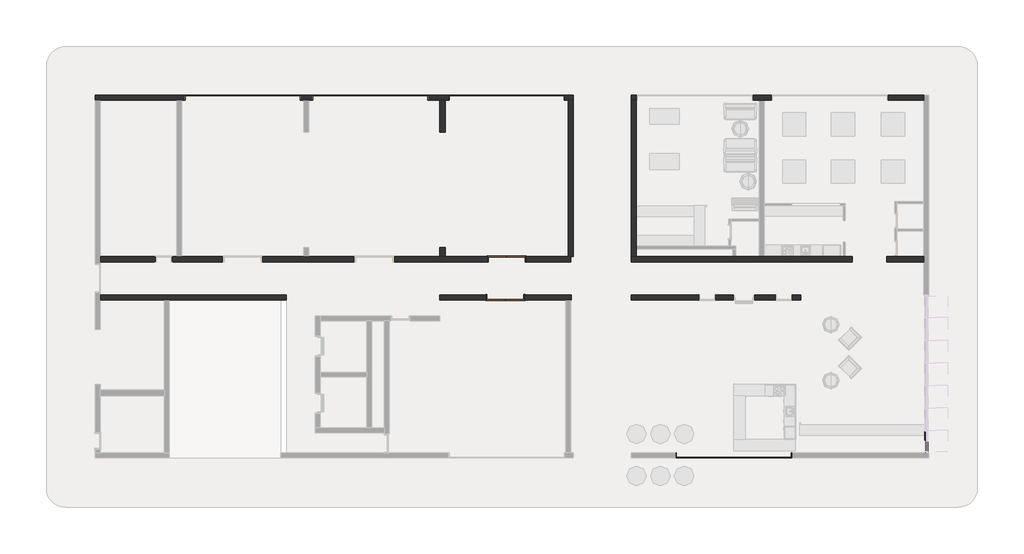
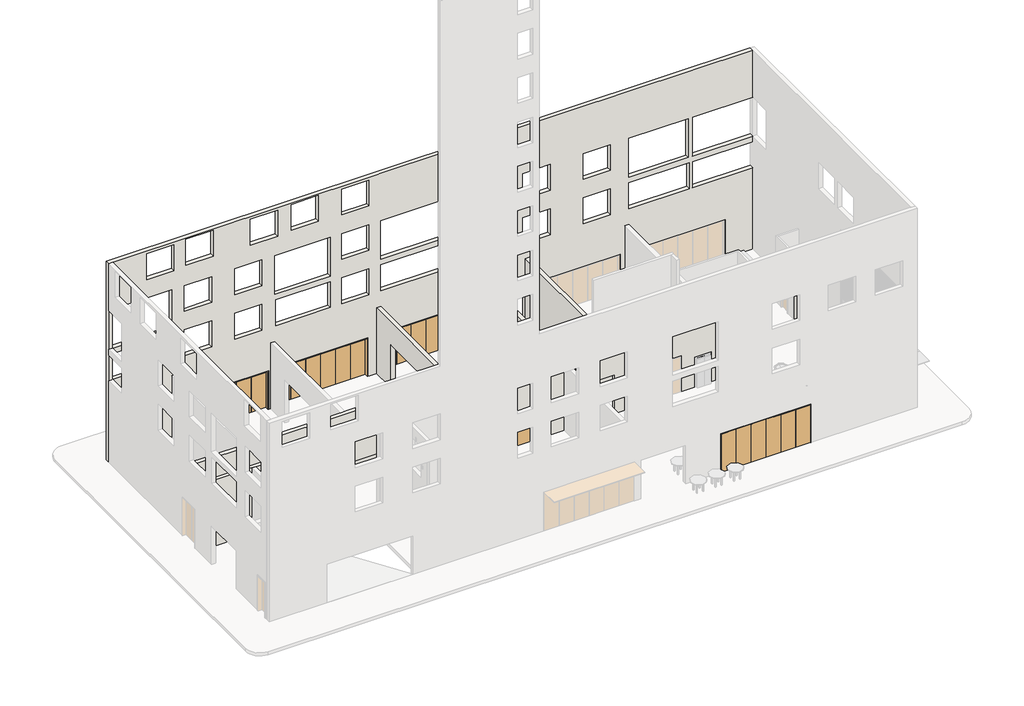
# One storey, part 2 of 8: 48 plates, 6 doors, 6 walls, 4 members.
"""IFC4 building model written with IfcOpenShell, lengths in millimetres."""

from ifc_helpers import new_model, si_unit, frame, origin, place, context, project, spatial, polyline, outline, extrude, faceted_brep, transform, mapped, element, save
from components import bi_fold_dor_6_panel_6000_f2409742, bi_fold_dor_6_panel_6000_871157eb, bi_fold_dor_6_panel_6000_81c243c2, swing_double_metal_frame_double_2040_x_970x2_2b0cb67a, rectangular_mullion_50_x_150mm_232fa5d8, rectangular_mullion_50_x_150mm_43455e2b, rectangular_mullion_50_x_150mm_69155bbe, empty_system_panel_empty_6a0359b6, empty_system_panel_empty_9e7b3ea5, system_panel_concept_glazed_32b225e3

model = new_model("IFC4")

# Units and contexts
model_context = context("Model", 3, world=origin())
ifc_project = project(units=[si_unit("LENGTHUNIT", "METRE", prefix="MILLI")], contexts=[model_context])

# Site, building, storey
site = spatial("IfcSite", under=ifc_project)
building = spatial("IfcBuilding", under=site)
storey = spatial("IfcBuildingStorey", under=building, Name="0階", Elevation=25100.0)

# Doors
placement = place(None, origin())
bi_fold_dor_6_panel_6000_shape = bi_fold_dor_6_panel_6000_f2409742(model_context)
element("IfcDoor", 1, ObjectType="Bi Fold_DOR : 6 Panel - 6000", at=placement, inside=storey, context=model_context, shape_type="MappedRepresentation", body=[
    mapped(bi_fold_dor_6_panel_6000_shape, transform((9953.4275387, 18575.0, 25100.0), x_axis=(1.0, 0.0, 0.0), y_axis=(0.0, 1.0, 0.0), z_axis=(0.0, 0.0, 1.0))),
])
element("IfcDoor", 2, ObjectType="Bi Fold_DOR : 6 Panel - 6000", at=placement, inside=storey, context=model_context, shape_type="MappedRepresentation", body=[
    mapped(bi_fold_dor_6_panel_6000_shape, transform((23523.2434971, 18575.0, 25100.0), x_axis=(1.0, 0.0, 0.0), y_axis=(0.0, 1.0, 0.0), z_axis=(0.0, 0.0, 1.0))),
])
bi_fold_dor_6_panel_6000_2_shape = bi_fold_dor_6_panel_6000_871157eb(model_context)
element("IfcDoor", 3, ObjectType="Bi Fold_DOR : 6 Panel - 6000", at=placement, inside=storey, context=model_context, shape_type="MappedRepresentation", body=[
    mapped(bi_fold_dor_6_panel_6000_2_shape, transform((16517.1904782, 18575.0, 25100.0), x_axis=(-1.0, 0.0, 0.0), y_axis=(0.0, -1.0, 0.0), z_axis=(0.0, 0.0, 1.0))),
])
bi_fold_dor_6_panel_6000_3_shape = bi_fold_dor_6_panel_6000_81c243c2(model_context)
element("IfcDoor", 4, ObjectType="Bi Fold_DOR : 6 Panel - 6000", at=placement, inside=storey, context=model_context, shape_type="MappedRepresentation", body=[
    mapped(bi_fold_dor_6_panel_6000_3_shape, transform((35212.4654784, 174.0898177, 25100.0), x_axis=(-1.0, 0.0, 0.0), y_axis=(0.0, -1.0, 0.0), z_axis=(0.0, 0.0, 1.0))),
])
swing_double_metal_frame_double_2040_x_970x2_shape = swing_double_metal_frame_double_2040_x_970x2_2b0cb67a(model_context)
element("IfcDoor", 5, ObjectType="Swing_Double : Metal Frame Double - 2040 x 970x2", at=placement, inside=storey, context=model_context, shape_type="MappedRepresentation", body=[
    mapped(swing_double_metal_frame_double_2040_x_970x2_shape, transform((23734.7434971, 10265.005792, 25100.0), x_axis=(1.0, 0.0, 0.0), y_axis=(0.0, 1.0, 0.0), z_axis=(0.0, 0.0, 1.0))),
])
element("IfcDoor", 6, ObjectType="Swing_Double : Metal Frame Double - 2040 x 970x2", at=placement, inside=storey, context=model_context, shape_type="MappedRepresentation", body=[
    mapped(swing_double_metal_frame_double_2040_x_970x2_shape, transform((23249.2434971, 8295.005792, 25100.0), x_axis=(-1.0, 0.0, 0.0), y_axis=(0.0, -1.0, 0.0), z_axis=(0.0, 0.0, 1.0))),
])

# Members
rectangular_mullion_50_x_150mm_shape = rectangular_mullion_50_x_150mm_232fa5d8(model_context)
element("IfcMember", 7, ObjectType="Rectangular Mullion : 50 x 150mm", at=placement, inside=storey, context=model_context, shape_type="MappedRepresentation", body=[
    mapped(rectangular_mullion_50_x_150mm_shape, transform((45100.0, 309.0898177, 25100.0), x_axis=(0.0, 0.0, -1.0), y_axis=(1.0, 0.0, 0.0), z_axis=(0.0, -1.0, 0.0))),
])
rectangular_mullion_50_x_150mm_2_shape = rectangular_mullion_50_x_150mm_43455e2b(model_context)
element("IfcMember", 8, ObjectType="Rectangular Mullion : 50 x 150mm", at=placement, inside=storey, context=model_context, shape_type="MappedRepresentation", body=[
    mapped(rectangular_mullion_50_x_150mm_2_shape, transform((45100.0, 309.0898177, 27800.0), x_axis=(0.0, -1.0, 0.0), y_axis=(1.0, 0.0, 0.0), z_axis=(0.0, 0.0, 1.0))),
])
element("IfcMember", 9, ObjectType="Rectangular Mullion : 50 x 150mm", at=placement, inside=storey, context=model_context, shape_type="MappedRepresentation", body=[
    mapped(rectangular_mullion_50_x_150mm_2_shape, transform((45100.0, 309.0898177, 32550.0), x_axis=(0.0, -1.0, 0.0), y_axis=(1.0, 0.0, 0.0), z_axis=(0.0, 0.0, 1.0))),
])
rectangular_mullion_50_x_150mm_3_shape = rectangular_mullion_50_x_150mm_69155bbe(model_context)
element("IfcMember", 10, ObjectType="Rectangular Mullion : 50 x 150mm", at=placement, inside=storey, context=model_context, shape_type="MappedRepresentation", body=[
    mapped(rectangular_mullion_50_x_150mm_3_shape, transform((45100.0, 309.0898177, 29900.0), x_axis=(0.0, -1.0, 0.0), y_axis=(1.0, 0.0, 0.0), z_axis=(0.0, 0.0, 1.0))),
])

# Plates
empty_system_panel_empty_shape = empty_system_panel_empty_6a0359b6(model_context)
element("IfcPlate", 11, ObjectType="Empty System Panel : Empty", at=placement, inside=storey, context=model_context, shape_type="MappedRepresentation", body=[
    mapped(empty_system_panel_empty_shape, transform((45100.0, 900.1612462, 27825.0), x_axis=(0.0, 1.0, 0.0), y_axis=(-1.0, 0.0, 0.0), z_axis=(0.0, 0.0, 1.0))),
])
element("IfcPlate", 12, ObjectType="Empty System Panel : Empty", at=placement, inside=storey, context=model_context, shape_type="MappedRepresentation", body=[
    mapped(empty_system_panel_empty_shape, transform((45100.0, 900.1612462, 27925.0), x_axis=(0.0, 1.0, 0.0), y_axis=(-1.0, 0.0, 0.0), z_axis=(0.0, 0.0, 1.0))),
])
element("IfcPlate", 13, ObjectType="Empty System Panel : Empty", at=placement, inside=storey, context=model_context, shape_type="MappedRepresentation", body=[
    mapped(empty_system_panel_empty_shape, transform((45100.0, 900.1612462, 28025.0), x_axis=(0.0, 1.0, 0.0), y_axis=(-1.0, 0.0, 0.0), z_axis=(0.0, 0.0, 1.0))),
])
element("IfcPlate", 14, ObjectType="Empty System Panel : Empty", at=placement, inside=storey, context=model_context, shape_type="MappedRepresentation", body=[
    mapped(empty_system_panel_empty_shape, transform((45100.0, 900.1612462, 28125.0), x_axis=(0.0, 1.0, 0.0), y_axis=(-1.0, 0.0, 0.0), z_axis=(0.0, 0.0, 1.0))),
])
element("IfcPlate", 15, ObjectType="Empty System Panel : Empty", at=placement, inside=storey, context=model_context, shape_type="MappedRepresentation", body=[
    mapped(empty_system_panel_empty_shape, transform((45100.0, 900.1612462, 28225.0), x_axis=(0.0, 1.0, 0.0), y_axis=(-1.0, 0.0, 0.0), z_axis=(0.0, 0.0, 1.0))),
])
element("IfcPlate", 16, ObjectType="Empty System Panel : Empty", at=placement, inside=storey, context=model_context, shape_type="MappedRepresentation", body=[
    mapped(empty_system_panel_empty_shape, transform((45100.0, 900.1612462, 28325.0), x_axis=(0.0, 1.0, 0.0), y_axis=(-1.0, 0.0, 0.0), z_axis=(0.0, 0.0, 1.0))),
])
element("IfcPlate", 17, ObjectType="Empty System Panel : Empty", at=placement, inside=storey, context=model_context, shape_type="MappedRepresentation", body=[
    mapped(empty_system_panel_empty_shape, transform((45100.0, 900.1612462, 28425.0), x_axis=(0.0, 1.0, 0.0), y_axis=(-1.0, 0.0, 0.0), z_axis=(0.0, 0.0, 1.0))),
])
element("IfcPlate", 18, ObjectType="Empty System Panel : Empty", at=placement, inside=storey, context=model_context, shape_type="MappedRepresentation", body=[
    mapped(empty_system_panel_empty_shape, transform((45100.0, 900.1612462, 28525.0), x_axis=(0.0, 1.0, 0.0), y_axis=(-1.0, 0.0, 0.0), z_axis=(0.0, 0.0, 1.0))),
])
element("IfcPlate", 19, ObjectType="Empty System Panel : Empty", at=placement, inside=storey, context=model_context, shape_type="MappedRepresentation", body=[
    mapped(empty_system_panel_empty_shape, transform((45100.0, 900.1612462, 28625.0), x_axis=(0.0, 1.0, 0.0), y_axis=(-1.0, 0.0, 0.0), z_axis=(0.0, 0.0, 1.0))),
])
element("IfcPlate", 20, ObjectType="Empty System Panel : Empty", at=placement, inside=storey, context=model_context, shape_type="MappedRepresentation", body=[
    mapped(empty_system_panel_empty_shape, transform((45100.0, 900.1612462, 28725.0), x_axis=(0.0, 1.0, 0.0), y_axis=(-1.0, 0.0, 0.0), z_axis=(0.0, 0.0, 1.0))),
])
element("IfcPlate", 21, ObjectType="Empty System Panel : Empty", at=placement, inside=storey, context=model_context, shape_type="MappedRepresentation", body=[
    mapped(empty_system_panel_empty_shape, transform((45100.0, 900.1612462, 28825.0), x_axis=(0.0, 1.0, 0.0), y_axis=(-1.0, 0.0, 0.0), z_axis=(0.0, 0.0, 1.0))),
])
element("IfcPlate", 22, ObjectType="Empty System Panel : Empty", at=placement, inside=storey, context=model_context, shape_type="MappedRepresentation", body=[
    mapped(empty_system_panel_empty_shape, transform((45100.0, 900.1612462, 28925.0), x_axis=(0.0, 1.0, 0.0), y_axis=(-1.0, 0.0, 0.0), z_axis=(0.0, 0.0, 1.0))),
])
element("IfcPlate", 23, ObjectType="Empty System Panel : Empty", at=placement, inside=storey, context=model_context, shape_type="MappedRepresentation", body=[
    mapped(empty_system_panel_empty_shape, transform((45100.0, 900.1612462, 29025.0), x_axis=(0.0, 1.0, 0.0), y_axis=(-1.0, 0.0, 0.0), z_axis=(0.0, 0.0, 1.0))),
])
element("IfcPlate", 24, ObjectType="Empty System Panel : Empty", at=placement, inside=storey, context=model_context, shape_type="MappedRepresentation", body=[
    mapped(empty_system_panel_empty_shape, transform((45100.0, 900.1612462, 29125.0), x_axis=(0.0, 1.0, 0.0), y_axis=(-1.0, 0.0, 0.0), z_axis=(0.0, 0.0, 1.0))),
])
element("IfcPlate", 25, ObjectType="Empty System Panel : Empty", at=placement, inside=storey, context=model_context, shape_type="MappedRepresentation", body=[
    mapped(empty_system_panel_empty_shape, transform((45100.0, 900.1612462, 29225.0), x_axis=(0.0, 1.0, 0.0), y_axis=(-1.0, 0.0, 0.0), z_axis=(0.0, 0.0, 1.0))),
])
element("IfcPlate", 26, ObjectType="Empty System Panel : Empty", at=placement, inside=storey, context=model_context, shape_type="MappedRepresentation", body=[
    mapped(empty_system_panel_empty_shape, transform((45100.0, 900.1612462, 29325.0), x_axis=(0.0, 1.0, 0.0), y_axis=(-1.0, 0.0, 0.0), z_axis=(0.0, 0.0, 1.0))),
])
element("IfcPlate", 27, ObjectType="Empty System Panel : Empty", at=placement, inside=storey, context=model_context, shape_type="MappedRepresentation", body=[
    mapped(empty_system_panel_empty_shape, transform((45100.0, 900.1612462, 29425.0), x_axis=(0.0, 1.0, 0.0), y_axis=(-1.0, 0.0, 0.0), z_axis=(0.0, 0.0, 1.0))),
])
element("IfcPlate", 28, ObjectType="Empty System Panel : Empty", at=placement, inside=storey, context=model_context, shape_type="MappedRepresentation", body=[
    mapped(empty_system_panel_empty_shape, transform((45100.0, 900.1612462, 29525.0), x_axis=(0.0, 1.0, 0.0), y_axis=(-1.0, 0.0, 0.0), z_axis=(0.0, 0.0, 1.0))),
])
element("IfcPlate", 29, ObjectType="Empty System Panel : Empty", at=placement, inside=storey, context=model_context, shape_type="MappedRepresentation", body=[
    mapped(empty_system_panel_empty_shape, transform((45100.0, 900.1612462, 29625.0), x_axis=(0.0, 1.0, 0.0), y_axis=(-1.0, 0.0, 0.0), z_axis=(0.0, 0.0, 1.0))),
])
element("IfcPlate", 30, ObjectType="Empty System Panel : Empty", at=placement, inside=storey, context=model_context, shape_type="MappedRepresentation", body=[
    mapped(empty_system_panel_empty_shape, transform((45100.0, 900.1612462, 29725.0), x_axis=(0.0, 1.0, 0.0), y_axis=(-1.0, 0.0, 0.0), z_axis=(0.0, 0.0, 1.0))),
])
element("IfcPlate", 31, ObjectType="Empty System Panel : Empty", at=placement, inside=storey, context=model_context, shape_type="MappedRepresentation", body=[
    mapped(empty_system_panel_empty_shape, transform((45100.0, 900.1612462, 29925.0), x_axis=(0.0, 1.0, 0.0), y_axis=(-1.0, 0.0, 0.0), z_axis=(0.0, 0.0, 1.0))),
])
element("IfcPlate", 32, ObjectType="Empty System Panel : Empty", at=placement, inside=storey, context=model_context, shape_type="MappedRepresentation", body=[
    mapped(empty_system_panel_empty_shape, transform((45100.0, 900.1612462, 30025.0), x_axis=(0.0, 1.0, 0.0), y_axis=(-1.0, 0.0, 0.0), z_axis=(0.0, 0.0, 1.0))),
])
element("IfcPlate", 33, ObjectType="Empty System Panel : Empty", at=placement, inside=storey, context=model_context, shape_type="MappedRepresentation", body=[
    mapped(empty_system_panel_empty_shape, transform((45100.0, 900.1612462, 30125.0), x_axis=(0.0, 1.0, 0.0), y_axis=(-1.0, 0.0, 0.0), z_axis=(0.0, 0.0, 1.0))),
])
element("IfcPlate", 34, ObjectType="Empty System Panel : Empty", at=placement, inside=storey, context=model_context, shape_type="MappedRepresentation", body=[
    mapped(empty_system_panel_empty_shape, transform((45100.0, 900.1612462, 30225.0), x_axis=(0.0, 1.0, 0.0), y_axis=(-1.0, 0.0, 0.0), z_axis=(0.0, 0.0, 1.0))),
])
element("IfcPlate", 35, ObjectType="Empty System Panel : Empty", at=placement, inside=storey, context=model_context, shape_type="MappedRepresentation", body=[
    mapped(empty_system_panel_empty_shape, transform((45100.0, 900.1612462, 30325.0), x_axis=(0.0, 1.0, 0.0), y_axis=(-1.0, 0.0, 0.0), z_axis=(0.0, 0.0, 1.0))),
])
element("IfcPlate", 36, ObjectType="Empty System Panel : Empty", at=placement, inside=storey, context=model_context, shape_type="MappedRepresentation", body=[
    mapped(empty_system_panel_empty_shape, transform((45100.0, 900.1612462, 30425.0), x_axis=(0.0, 1.0, 0.0), y_axis=(-1.0, 0.0, 0.0), z_axis=(0.0, 0.0, 1.0))),
])
element("IfcPlate", 37, ObjectType="Empty System Panel : Empty", at=placement, inside=storey, context=model_context, shape_type="MappedRepresentation", body=[
    mapped(empty_system_panel_empty_shape, transform((45100.0, 900.1612462, 30525.0), x_axis=(0.0, 1.0, 0.0), y_axis=(-1.0, 0.0, 0.0), z_axis=(0.0, 0.0, 1.0))),
])
element("IfcPlate", 38, ObjectType="Empty System Panel : Empty", at=placement, inside=storey, context=model_context, shape_type="MappedRepresentation", body=[
    mapped(empty_system_panel_empty_shape, transform((45100.0, 900.1612462, 30625.0), x_axis=(0.0, 1.0, 0.0), y_axis=(-1.0, 0.0, 0.0), z_axis=(0.0, 0.0, 1.0))),
])
element("IfcPlate", 39, ObjectType="Empty System Panel : Empty", at=placement, inside=storey, context=model_context, shape_type="MappedRepresentation", body=[
    mapped(empty_system_panel_empty_shape, transform((45100.0, 900.1612462, 30725.0), x_axis=(0.0, 1.0, 0.0), y_axis=(-1.0, 0.0, 0.0), z_axis=(0.0, 0.0, 1.0))),
])
element("IfcPlate", 40, ObjectType="Empty System Panel : Empty", at=placement, inside=storey, context=model_context, shape_type="MappedRepresentation", body=[
    mapped(empty_system_panel_empty_shape, transform((45100.0, 900.1612462, 30825.0), x_axis=(0.0, 1.0, 0.0), y_axis=(-1.0, 0.0, 0.0), z_axis=(0.0, 0.0, 1.0))),
])
element("IfcPlate", 41, ObjectType="Empty System Panel : Empty", at=placement, inside=storey, context=model_context, shape_type="MappedRepresentation", body=[
    mapped(empty_system_panel_empty_shape, transform((45100.0, 900.1612462, 30925.0), x_axis=(0.0, 1.0, 0.0), y_axis=(-1.0, 0.0, 0.0), z_axis=(0.0, 0.0, 1.0))),
])
element("IfcPlate", 42, ObjectType="Empty System Panel : Empty", at=placement, inside=storey, context=model_context, shape_type="MappedRepresentation", body=[
    mapped(empty_system_panel_empty_shape, transform((45100.0, 900.1612462, 31025.0), x_axis=(0.0, 1.0, 0.0), y_axis=(-1.0, 0.0, 0.0), z_axis=(0.0, 0.0, 1.0))),
])
element("IfcPlate", 43, ObjectType="Empty System Panel : Empty", at=placement, inside=storey, context=model_context, shape_type="MappedRepresentation", body=[
    mapped(empty_system_panel_empty_shape, transform((45100.0, 900.1612462, 31125.0), x_axis=(0.0, 1.0, 0.0), y_axis=(-1.0, 0.0, 0.0), z_axis=(0.0, 0.0, 1.0))),
])
element("IfcPlate", 44, ObjectType="Empty System Panel : Empty", at=placement, inside=storey, context=model_context, shape_type="MappedRepresentation", body=[
    mapped(empty_system_panel_empty_shape, transform((45100.0, 900.1612462, 31225.0), x_axis=(0.0, 1.0, 0.0), y_axis=(-1.0, 0.0, 0.0), z_axis=(0.0, 0.0, 1.0))),
])
element("IfcPlate", 45, ObjectType="Empty System Panel : Empty", at=placement, inside=storey, context=model_context, shape_type="MappedRepresentation", body=[
    mapped(empty_system_panel_empty_shape, transform((45100.0, 900.1612462, 31325.0), x_axis=(0.0, 1.0, 0.0), y_axis=(-1.0, 0.0, 0.0), z_axis=(0.0, 0.0, 1.0))),
])
element("IfcPlate", 46, ObjectType="Empty System Panel : Empty", at=placement, inside=storey, context=model_context, shape_type="MappedRepresentation", body=[
    mapped(empty_system_panel_empty_shape, transform((45100.0, 900.1612462, 31425.0), x_axis=(0.0, 1.0, 0.0), y_axis=(-1.0, 0.0, 0.0), z_axis=(0.0, 0.0, 1.0))),
])
element("IfcPlate", 47, ObjectType="Empty System Panel : Empty", at=placement, inside=storey, context=model_context, shape_type="MappedRepresentation", body=[
    mapped(empty_system_panel_empty_shape, transform((45100.0, 900.1612462, 31525.0), x_axis=(0.0, 1.0, 0.0), y_axis=(-1.0, 0.0, 0.0), z_axis=(0.0, 0.0, 1.0))),
])
element("IfcPlate", 48, ObjectType="Empty System Panel : Empty", at=placement, inside=storey, context=model_context, shape_type="MappedRepresentation", body=[
    mapped(empty_system_panel_empty_shape, transform((45100.0, 900.1612462, 31625.0), x_axis=(0.0, 1.0, 0.0), y_axis=(-1.0, 0.0, 0.0), z_axis=(0.0, 0.0, 1.0))),
])
element("IfcPlate", 49, ObjectType="Empty System Panel : Empty", at=placement, inside=storey, context=model_context, shape_type="MappedRepresentation", body=[
    mapped(empty_system_panel_empty_shape, transform((45100.0, 900.1612462, 31725.0), x_axis=(0.0, 1.0, 0.0), y_axis=(-1.0, 0.0, 0.0), z_axis=(0.0, 0.0, 1.0))),
])
element("IfcPlate", 50, ObjectType="Empty System Panel : Empty", at=placement, inside=storey, context=model_context, shape_type="MappedRepresentation", body=[
    mapped(empty_system_panel_empty_shape, transform((45100.0, 900.1612462, 31825.0), x_axis=(0.0, 1.0, 0.0), y_axis=(-1.0, 0.0, 0.0), z_axis=(0.0, 0.0, 1.0))),
])
element("IfcPlate", 51, ObjectType="Empty System Panel : Empty", at=placement, inside=storey, context=model_context, shape_type="MappedRepresentation", body=[
    mapped(empty_system_panel_empty_shape, transform((45100.0, 900.1612462, 31925.0), x_axis=(0.0, 1.0, 0.0), y_axis=(-1.0, 0.0, 0.0), z_axis=(0.0, 0.0, 1.0))),
])
element("IfcPlate", 52, ObjectType="Empty System Panel : Empty", at=placement, inside=storey, context=model_context, shape_type="MappedRepresentation", body=[
    mapped(empty_system_panel_empty_shape, transform((45100.0, 900.1612462, 32025.0), x_axis=(0.0, 1.0, 0.0), y_axis=(-1.0, 0.0, 0.0), z_axis=(0.0, 0.0, 1.0))),
])
element("IfcPlate", 53, ObjectType="Empty System Panel : Empty", at=placement, inside=storey, context=model_context, shape_type="MappedRepresentation", body=[
    mapped(empty_system_panel_empty_shape, transform((45100.0, 900.1612462, 32125.0), x_axis=(0.0, 1.0, 0.0), y_axis=(-1.0, 0.0, 0.0), z_axis=(0.0, 0.0, 1.0))),
])
element("IfcPlate", 54, ObjectType="Empty System Panel : Empty", at=placement, inside=storey, context=model_context, shape_type="MappedRepresentation", body=[
    mapped(empty_system_panel_empty_shape, transform((45100.0, 900.1612462, 32225.0), x_axis=(0.0, 1.0, 0.0), y_axis=(-1.0, 0.0, 0.0), z_axis=(0.0, 0.0, 1.0))),
])
element("IfcPlate", 55, ObjectType="Empty System Panel : Empty", at=placement, inside=storey, context=model_context, shape_type="MappedRepresentation", body=[
    mapped(empty_system_panel_empty_shape, transform((45100.0, 900.1612462, 32325.0), x_axis=(0.0, 1.0, 0.0), y_axis=(-1.0, 0.0, 0.0), z_axis=(0.0, 0.0, 1.0))),
])
element("IfcPlate", 56, ObjectType="Empty System Panel : Empty", at=placement, inside=storey, context=model_context, shape_type="MappedRepresentation", body=[
    mapped(empty_system_panel_empty_shape, transform((45100.0, 900.1612462, 32425.0), x_axis=(0.0, 1.0, 0.0), y_axis=(-1.0, 0.0, 0.0), z_axis=(0.0, 0.0, 1.0))),
])
empty_system_panel_empty_2_shape = empty_system_panel_empty_9e7b3ea5(model_context)
element("IfcPlate", 57, ObjectType="Empty System Panel : Empty", at=placement, inside=storey, context=model_context, shape_type="MappedRepresentation", body=[
    mapped(empty_system_panel_empty_2_shape, transform((45100.0, 900.1612462, 29825.0), x_axis=(0.0, 1.0, 0.0), y_axis=(-1.0, 0.0, 0.0), z_axis=(0.0, 0.0, 1.0))),
])
system_panel_concept_glazed_shape = system_panel_concept_glazed_32b225e3(model_context)
element("IfcPlate", 58, ObjectType="System Panel : Concept Glazed", at=placement, inside=storey, context=model_context, shape_type="MappedRepresentation", body=[
    mapped(system_panel_concept_glazed_shape, transform((45100.0, 900.1612462, 25150.0), x_axis=(0.0, 1.0, 0.0), y_axis=(-1.0, 0.0, 0.0), z_axis=(0.0, 0.0, 1.0))),
])

# Walls
element("IfcWall", 59, ObjectType="Brickwork_Double_270mm", at=placement, inside=storey, context=model_context, shape_type="Brep", body=[
    faceted_brep([(44965.0, 18440.0, 39000.0), (20364.6062665, 18440.0, 39000.0), (20094.6062665, 18440.0, 39000.0), (2639.6057353, 18440.0, 39000.0), (2369.6057353, 18440.0, 39000.0), (2369.6057353, 18440.0, 35700.0), (2369.6057353, 18440.0, 33000.0), (2369.6057353, 18440.0, 32600.0), (2369.6057353, 18440.0, 30800.0), (2369.6057353, 18440.0, 25100.0), (2639.6057353, 18440.0, 25100.0), (6953.4275387, 18440.0, 25100.0), (6953.4275387, 18440.0, 27800.0), (12953.4275387, 18440.0, 27800.0), (12953.4275387, 18440.0, 25100.0), (13082.1904782, 18440.0, 25100.0), (13352.1904782, 18440.0, 25100.0), (13517.1904782, 18440.0, 25100.0), (13517.1904782, 18440.0, 27800.0), (19517.1904782, 18440.0, 27800.0), (19517.1904782, 18440.0, 25100.0), (20094.6062665, 18440.0, 25100.0), (20364.6062665, 18440.0, 25100.0), (20523.2434971, 18440.0, 25100.0), (20523.2434971, 18440.0, 27800.0), (26523.2434971, 18440.0, 27800.0), (26523.2434971, 18440.0, 25100.0), (26681.8807277, 18440.0, 25100.0), (26951.8807277, 18440.0, 25100.0), (26951.8807277, 18440.0, 27800.0), (29922.1585166, 18440.0, 27800.0), (29922.1585166, 18440.0, 25100.0), (30192.1585166, 18440.0, 25100.0), (30199.3593486, 18440.0, 25100.0), (30199.3593486, 18440.0, 27800.0), (36199.3593486, 18440.0, 27800.0), (36199.3593486, 18440.0, 25100.0), (36506.5601806, 18440.0, 25100.0), (36776.5601806, 18440.0, 25100.0), (37141.5601806, 18440.0, 25100.0), (37141.5601806, 18440.0, 27800.0), (43141.5601806, 18440.0, 27800.0), (43141.5601806, 18440.0, 25100.0), (44965.0, 18440.0, 25100.0), (44965.0, 18440.0, 30800.0), (40965.0, 18440.0, 30800.0), (40965.0, 18440.0, 32600.0), (44965.0, 18440.0, 32600.0), (44965.0, 18440.0, 33000.0), (40964.858031, 18440.0, 33000.0), (40964.858031, 18440.0, 35700.0), (44965.0, 18440.0, 35700.0), (6554.6645991, 18440.0, 33000.0), (2639.6057353, 18440.0, 33000.0), (2639.6057353, 18440.0, 35700.0), (6554.6645991, 18440.0, 35700.0), (13352.1904782, 18440.0, 33000.0), (13352.1904782, 18440.0, 35700.0), (17017.1904782, 18440.0, 35700.0), (17017.1904782, 18440.0, 33000.0), (20364.6062665, 18440.0, 33000.0), (20364.6062665, 18440.0, 35700.0), (24353.4034243, 18440.0, 35700.0), (24353.4034243, 18440.0, 33000.0), (28553.2012748, 18440.0, 35700.0), (28553.2012748, 18440.0, 33000.0), (24623.4034243, 18440.0, 33000.0), (24623.4034243, 18440.0, 35700.0), (36776.5601806, 18440.0, 33000.0), (36776.5601806, 18440.0, 35700.0), (40694.858031, 18440.0, 35700.0), (40694.858031, 18440.0, 33000.0), (33753.2204541, 18440.0, 33900.0), (33753.2204541, 18440.0, 35700.0), (35553.2204541, 18440.0, 35700.0), (35553.2204541, 18440.0, 33900.0), (29776.5410012, 18440.0, 33900.0), (29776.5410012, 18440.0, 35700.0), (31576.5410012, 18440.0, 35700.0), (31576.5410012, 18440.0, 33900.0), (17790.8983724, 18440.0, 33900.0), (17790.8983724, 18440.0, 35700.0), (19590.8983724, 18440.0, 35700.0), (19590.8983724, 18440.0, 33900.0), (10717.1904782, 18440.0, 33900.0), (10717.1904782, 18440.0, 35700.0), (12517.1904782, 18440.0, 35700.0), (12517.1904782, 18440.0, 33900.0), (7389.6645991, 18440.0, 33900.0), (7389.6645991, 18440.0, 35700.0), (9189.6645991, 18440.0, 35700.0), (9189.6645991, 18440.0, 33900.0), (4889.6645991, 18440.0, 37000.0), (4889.6645991, 18440.0, 38800.0), (6689.6645991, 18440.0, 38800.0), (6689.6645991, 18440.0, 37000.0), (17790.8983724, 18440.0, 37000.0), (17790.8983724, 18440.0, 38800.0), (19590.8983724, 18440.0, 38800.0), (19590.8983724, 18440.0, 37000.0), (29776.5410012, 18440.0, 30800.0), (29776.5410012, 18440.0, 32600.0), (31576.5410012, 18440.0, 32600.0), (31576.5410012, 18440.0, 30800.0), (33753.2204541, 18440.0, 30800.0), (33753.2204541, 18440.0, 32600.0), (35553.2204541, 18440.0, 32600.0), (35553.2204541, 18440.0, 30800.0), (13417.1904782, 18440.0, 30800.0), (13417.1904782, 18440.0, 32600.0), (17017.1904782, 18440.0, 32600.0), (17017.1904782, 18440.0, 30800.0), (2654.6645991, 18440.0, 30800.0), (2654.6645991, 18440.0, 32600.0), (6554.6645991, 18440.0, 32600.0), (6554.6645991, 18440.0, 30800.0), (17790.8983724, 18440.0, 30800.0), (17790.8983724, 18440.0, 32600.0), (19590.8983724, 18440.0, 32600.0), (19590.8983724, 18440.0, 30800.0), (36776.5601806, 18440.0, 30800.0), (36776.5601806, 18440.0, 32600.0), (40776.5601806, 18440.0, 32600.0), (40776.5601806, 18440.0, 30800.0), (24553.2012748, 18440.0, 30800.0), (24553.2012748, 18440.0, 32600.0), (28553.2012748, 18440.0, 32600.0), (28553.2012748, 18440.0, 30800.0), (20364.6062665, 18440.0, 30800.0), (20364.6062665, 18440.0, 32600.0), (24364.6062665, 18440.0, 32600.0), (24364.6062665, 18440.0, 30800.0), (10717.1904782, 18440.0, 30800.0), (10717.1904782, 18440.0, 32600.0), (12517.1904782, 18440.0, 32600.0), (12517.1904782, 18440.0, 30800.0), (7389.6645991, 18440.0, 30800.0), (7389.6645991, 18440.0, 32600.0), (9189.6645991, 18440.0, 32600.0), (9189.6645991, 18440.0, 30800.0), (11744.6062665, 18440.0, 37000.0), (11744.6062665, 18440.0, 38800.0), (13544.6062665, 18440.0, 38800.0), (13544.6062665, 18440.0, 37000.0), (14444.6062665, 18440.0, 37100.0), (14444.6062665, 18440.0, 38900.0), (16244.6062665, 18440.0, 38900.0), (16244.6062665, 18440.0, 37100.0), (7489.6645991, 18440.0, 37100.0), (7489.6645991, 18440.0, 38900.0), (9289.6645991, 18440.0, 38900.0), (9289.6645991, 18440.0, 37100.0), (2369.6057353, 18710.0, 39000.0), (44965.0, 18710.0, 39000.0), (44965.0, 18710.0, 35700.0), (40964.858031, 18710.0, 35700.0), (40964.858031, 18710.0, 33000.0), (44965.0, 18710.0, 33000.0), (44965.0, 18710.0, 32600.0), (40965.0, 18710.0, 32600.0), (40965.0, 18710.0, 30800.0), (44965.0, 18710.0, 30800.0), (44965.0, 18710.0, 25100.0), (43141.5601806, 18710.0, 25100.0), (43141.5601806, 18710.0, 27800.0), (37141.5601806, 18710.0, 27800.0), (37141.5601806, 18710.0, 25100.0), (36199.3593486, 18710.0, 25100.0), (36199.3593486, 18710.0, 27800.0), (30199.3593486, 18710.0, 27800.0), (30199.3593486, 18710.0, 25100.0), (29922.1585166, 18710.0, 25100.0), (29922.1585166, 18710.0, 27800.0), (26951.8807277, 18710.0, 27800.0), (26951.8807277, 18710.0, 25100.0), (26523.2434971, 18710.0, 25100.0), (26523.2434971, 18710.0, 27800.0), (20523.2434971, 18710.0, 27800.0), (20523.2434971, 18710.0, 25100.0), (19517.1904782, 18710.0, 25100.0), (19517.1904782, 18710.0, 27800.0), (13517.1904782, 18710.0, 27800.0), (13517.1904782, 18710.0, 25100.0), (12953.4275387, 18710.0, 25100.0), (12953.4275387, 18710.0, 27800.0), (6953.4275387, 18710.0, 27800.0), (6953.4275387, 18710.0, 25100.0), (2369.6057353, 18710.0, 25100.0), (2639.6057353, 18710.0, 33000.0), (6554.6645991, 18710.0, 33000.0), (6554.6645991, 18710.0, 35700.0), (2639.6057353, 18710.0, 35700.0), (13352.1904782, 18710.0, 35700.0), (13352.1904782, 18710.0, 33000.0), (17017.1904782, 18710.0, 33000.0), (17017.1904782, 18710.0, 35700.0), (20364.6062665, 18710.0, 35700.0), (20364.6062665, 18710.0, 33000.0), (24353.4034243, 18710.0, 33000.0), (24353.4034243, 18710.0, 35700.0), (28553.2012748, 18710.0, 33000.0), (28553.2012748, 18710.0, 35700.0), (24623.4034243, 18710.0, 35700.0), (24623.4034243, 18710.0, 33000.0), (36776.5601806, 18710.0, 35700.0), (36776.5601806, 18710.0, 33000.0), (40694.858031, 18710.0, 33000.0), (40694.858031, 18710.0, 35700.0), (33753.2204541, 18710.0, 35700.0), (33753.2204541, 18710.0, 33900.0), (35553.2204541, 18710.0, 33900.0), (35553.2204541, 18710.0, 35700.0), (29776.5410012, 18710.0, 35700.0), (29776.5410012, 18710.0, 33900.0), (31576.5410012, 18710.0, 33900.0), (31576.5410012, 18710.0, 35700.0), (17790.8983724, 18710.0, 35700.0), (17790.8983724, 18710.0, 33900.0), (19590.8983724, 18710.0, 33900.0), (19590.8983724, 18710.0, 35700.0), (10717.1904782, 18710.0, 35700.0), (10717.1904782, 18710.0, 33900.0), (12517.1904782, 18710.0, 33900.0), (12517.1904782, 18710.0, 35700.0), (7389.6645991, 18710.0, 35700.0), (7389.6645991, 18710.0, 33900.0), (9189.6645991, 18710.0, 33900.0), (9189.6645991, 18710.0, 35700.0), (4889.6645991, 18710.0, 38800.0), (4889.6645991, 18710.0, 37000.0), (6689.6645991, 18710.0, 37000.0), (6689.6645991, 18710.0, 38800.0), (17790.8983724, 18710.0, 38800.0), (17790.8983724, 18710.0, 37000.0), (19590.8983724, 18710.0, 37000.0), (19590.8983724, 18710.0, 38800.0), (29776.5410012, 18710.0, 32600.0), (29776.5410012, 18710.0, 30800.0), (31576.5410012, 18710.0, 30800.0), (31576.5410012, 18710.0, 32600.0), (33753.2204541, 18710.0, 32600.0), (33753.2204541, 18710.0, 30800.0), (35553.2204541, 18710.0, 30800.0), (35553.2204541, 18710.0, 32600.0), (13417.1904782, 18710.0, 32600.0), (13417.1904782, 18710.0, 30800.0), (17017.1904782, 18710.0, 30800.0), (17017.1904782, 18710.0, 32600.0), (2654.6645991, 18710.0, 32600.0), (2654.6645991, 18710.0, 30800.0), (6554.6645991, 18710.0, 30800.0), (6554.6645991, 18710.0, 32600.0), (17790.8983724, 18710.0, 32600.0), (17790.8983724, 18710.0, 30800.0), (19590.8983724, 18710.0, 30800.0), (19590.8983724, 18710.0, 32600.0), (36776.5601806, 18710.0, 32600.0), (36776.5601806, 18710.0, 30800.0), (40776.5601806, 18710.0, 30800.0), (40776.5601806, 18710.0, 32600.0), (24553.2012748, 18710.0, 32600.0), (24553.2012748, 18710.0, 30800.0), (28553.2012748, 18710.0, 30800.0), (28553.2012748, 18710.0, 32600.0), (20364.6062665, 18710.0, 32600.0), (20364.6062665, 18710.0, 30800.0), (24364.6062665, 18710.0, 30800.0), (24364.6062665, 18710.0, 32600.0), (10717.1904782, 18710.0, 32600.0), (10717.1904782, 18710.0, 30800.0), (12517.1904782, 18710.0, 30800.0), (12517.1904782, 18710.0, 32600.0), (7389.6645991, 18710.0, 32600.0), (7389.6645991, 18710.0, 30800.0), (9189.6645991, 18710.0, 30800.0), (9189.6645991, 18710.0, 32600.0), (11744.6062665, 18710.0, 38800.0), (11744.6062665, 18710.0, 37000.0), (13544.6062665, 18710.0, 37000.0), (13544.6062665, 18710.0, 38800.0), (14444.6062665, 18710.0, 38900.0), (14444.6062665, 18710.0, 37100.0), (16244.6062665, 18710.0, 37100.0), (16244.6062665, 18710.0, 38900.0), (7489.6645991, 18710.0, 38900.0), (7489.6645991, 18710.0, 37100.0), (9289.6645991, 18710.0, 37100.0), (9289.6645991, 18710.0, 38900.0)], [[[0, 1, 2, 3, 4, 5, 6, 7, 8, 9, 10, 11, 12, 13, 14, 15, 16, 17, 18, 19, 20, 21, 22, 23, 24, 25, 26, 27, 28, 29, 30, 31, 32, 33, 34, 35, 36, 37, 38, 39, 40, 41, 42, 43, 44, 45, 46, 47, 48, 49, 50, 51], [52, 53, 54, 55], [56, 57, 58, 59], [60, 61, 62, 63], [64, 65, 66, 67], [68, 69, 70, 71], [72, 73, 74, 75], [76, 77, 78, 79], [80, 81, 82, 83], [84, 85, 86, 87], [88, 89, 90, 91], [92, 93, 94, 95], [96, 97, 98, 99], [100, 101, 102, 103], [104, 105, 106, 107], [108, 109, 110, 111], [112, 113, 114, 115], [116, 117, 118, 119], [120, 121, 122, 123], [124, 125, 126, 127], [128, 129, 130, 131], [132, 133, 134, 135], [136, 137, 138, 139], [140, 141, 142, 143], [144, 145, 146, 147], [148, 149, 150, 151]], [[152, 153, 154, 155, 156, 157, 158, 159, 160, 161, 162, 163, 164, 165, 166, 167, 168, 169, 170, 171, 172, 173, 174, 175, 176, 177, 178, 179, 180, 181, 182, 183, 184, 185, 186, 187], [188, 189, 190, 191], [192, 193, 194, 195], [196, 197, 198, 199], [200, 201, 202, 203], [204, 205, 206, 207], [208, 209, 210, 211], [212, 213, 214, 215], [216, 217, 218, 219], [220, 221, 222, 223], [224, 225, 226, 227], [228, 229, 230, 231], [232, 233, 234, 235], [236, 237, 238, 239], [240, 241, 242, 243], [244, 245, 246, 247], [248, 249, 250, 251], [252, 253, 254, 255], [256, 257, 258, 259], [260, 261, 262, 263], [264, 265, 266, 267], [268, 269, 270, 271], [272, 273, 274, 275], [276, 277, 278, 279], [280, 281, 282, 283], [284, 285, 286, 287]], [[162, 43, 42, 163]], [[9, 187, 186, 11, 10]], [[174, 28, 27, 26, 175]], [[31, 171, 170, 33, 32]], [[14, 183, 182, 17, 16, 15]], [[20, 179, 178, 23, 22, 21]], [[36, 167, 166, 39, 38, 37]], [[4, 3, 2, 1, 0, 153, 152]], [[43, 162, 161, 44]], [[153, 0, 51, 154]], [[157, 48, 47, 158]], [[187, 9, 8, 7, 6, 5, 4, 152]], [[52, 189, 188, 53]], [[189, 52, 55, 190]], [[190, 55, 54, 191]], [[53, 188, 191, 54]], [[193, 192, 57, 56]], [[194, 193, 56, 59]], [[195, 194, 59, 58]], [[192, 195, 58, 57]], [[197, 196, 61, 60]], [[198, 197, 60, 63]], [[199, 198, 63, 62]], [[196, 199, 62, 61]], [[65, 64, 201, 200]], [[66, 65, 200, 203]], [[67, 66, 203, 202]], [[64, 67, 202, 201]], [[205, 204, 69, 68]], [[206, 205, 68, 71]], [[207, 206, 71, 70]], [[204, 207, 70, 69]], [[49, 48, 157, 156]], [[50, 49, 156, 155]], [[51, 50, 155, 154]], [[73, 72, 209, 208]], [[74, 73, 208, 211]], [[75, 74, 211, 210]], [[72, 75, 210, 209]], [[77, 76, 213, 212]], [[78, 77, 212, 215]], [[79, 78, 215, 214]], [[76, 79, 214, 213]], [[81, 80, 217, 216]], [[82, 81, 216, 219]], [[83, 82, 219, 218]], [[80, 83, 218, 217]], [[85, 84, 221, 220]], [[86, 85, 220, 223]], [[87, 86, 223, 222]], [[84, 87, 222, 221]], [[89, 88, 225, 224]], [[90, 89, 224, 227]], [[91, 90, 227, 226]], [[88, 91, 226, 225]], [[93, 92, 229, 228]], [[94, 93, 228, 231]], [[95, 94, 231, 230]], [[92, 95, 230, 229]], [[97, 96, 233, 232]], [[98, 97, 232, 235]], [[99, 98, 235, 234]], [[96, 99, 234, 233]], [[173, 29, 28, 174]], [[29, 173, 172, 30]], [[30, 172, 171, 31]], [[14, 13, 184, 183]], [[13, 12, 185, 184]], [[12, 11, 186, 185]], [[18, 17, 182, 181]], [[19, 18, 181, 180]], [[20, 19, 180, 179]], [[26, 25, 176, 175]], [[25, 24, 177, 176]], [[24, 23, 178, 177]], [[36, 35, 168, 167]], [[35, 34, 169, 168]], [[34, 33, 170, 169]], [[40, 39, 166, 165]], [[41, 40, 165, 164]], [[42, 41, 164, 163]], [[101, 100, 237, 236]], [[102, 101, 236, 239]], [[103, 102, 239, 238]], [[100, 103, 238, 237]], [[105, 104, 241, 240]], [[106, 105, 240, 243]], [[107, 106, 243, 242]], [[104, 107, 242, 241]], [[109, 108, 245, 244]], [[110, 109, 244, 247]], [[111, 110, 247, 246]], [[108, 111, 246, 245]], [[113, 112, 249, 248]], [[114, 113, 248, 251]], [[115, 114, 251, 250]], [[112, 115, 250, 249]], [[117, 116, 253, 252]], [[118, 117, 252, 255]], [[119, 118, 255, 254]], [[116, 119, 254, 253]], [[45, 160, 159, 46]], [[46, 159, 158, 47]], [[160, 45, 44, 161]], [[120, 257, 256, 121]], [[259, 122, 121, 256]], [[122, 259, 258, 123]], [[123, 258, 257, 120]], [[124, 261, 260, 125]], [[125, 260, 263, 126]], [[126, 263, 262, 127]], [[261, 124, 127, 262]], [[128, 265, 264, 129]], [[267, 130, 129, 264]], [[266, 131, 130, 267]], [[131, 266, 265, 128]], [[133, 132, 269, 268]], [[134, 133, 268, 271]], [[135, 134, 271, 270]], [[132, 135, 270, 269]], [[137, 136, 273, 272]], [[138, 137, 272, 275]], [[139, 138, 275, 274]], [[136, 139, 274, 273]], [[141, 140, 277, 276]], [[142, 141, 276, 279]], [[143, 142, 279, 278]], [[140, 143, 278, 277]], [[145, 144, 281, 280]], [[146, 145, 280, 283]], [[147, 146, 283, 282]], [[144, 147, 282, 281]], [[149, 148, 285, 284]], [[150, 149, 284, 287]], [[151, 150, 287, 286]], [[148, 151, 286, 285]]]),
])
element("IfcWall", 60, ObjectType="Brickwork_Double_270mm", at=placement, inside=storey, context=model_context, shape_type="Brep", body=[
    faceted_brep([(24460.7434971, 8160.005792, 27190.0), (24460.7434971, 8160.005792, 25100.0), (26556.8807277, 8160.005792, 25100.0), (26826.8807277, 8160.005792, 25100.0), (26853.2645298, 8160.005792, 25100.0), (26853.2645298, 8160.005792, 27800.0), (29922.1585166, 8160.005792, 27800.0), (29922.1585166, 8160.005792, 25100.0), (30192.1585166, 8160.005792, 25100.0), (33402.1585166, 8160.005792, 25100.0), (33402.1585166, 8160.005792, 27590.0), (34282.1585166, 8160.005792, 27590.0), (34282.1585166, 8160.005792, 25100.0), (35182.1585166, 8160.005792, 25100.0), (35182.1585166, 8160.005792, 27200.0), (36282.1585166, 8160.005792, 27200.0), (36282.1585166, 8160.005792, 25100.0), (37342.1585166, 8160.005792, 25100.0), (37342.1585166, 8160.005792, 27590.0), (38222.1585166, 8160.005792, 27590.0), (38222.1585166, 8160.005792, 25100.0), (38377.4654784, 8160.005792, 25100.0), (38647.4654784, 8160.005792, 25100.0), (38647.4654784, 8160.005792, 29700.0), (38377.4654784, 8160.005792, 29700.0), (30192.1585166, 8160.005792, 29700.0), (29922.1585166, 8160.005792, 29700.0), (26826.8807277, 8160.005792, 29700.0), (26556.8807277, 8160.005792, 29700.0), (20364.6062665, 8160.005792, 29700.0), (20094.6062665, 8160.005792, 29700.0), (12182.1904782, 8160.005792, 29700.0), (11912.1904782, 8160.005792, 29700.0), (6182.1904782, 8160.005792, 29700.0), (5912.1904782, 8160.005792, 29700.0), (2639.6057353, 8160.005792, 29700.0), (2639.6057353, 8160.005792, 25100.0), (5912.1904782, 8160.005792, 25100.0), (6182.1904782, 8160.005792, 25100.0), (12182.1904782, 8160.005792, 25100.0), (12182.1904782, 8160.005792, 27800.0), (20094.6062665, 8160.005792, 27800.0), (20094.6062665, 8160.005792, 25100.0), (22460.7434971, 8160.005792, 25100.0), (22460.7434971, 8160.005792, 27190.0), (26853.2645298, 8430.005792, 25100.0), (24460.7434971, 8430.005792, 25100.0), (24460.7434971, 8430.005792, 27190.0), (22460.7434971, 8430.005792, 27190.0), (22460.7434971, 8430.005792, 25100.0), (20094.6062665, 8430.005792, 25100.0), (20094.6062665, 8430.005792, 27800.0), (12182.1904782, 8430.005792, 27800.0), (12182.1904782, 8430.005792, 25100.0), (2639.6057353, 8430.005792, 25100.0), (2639.6057353, 8430.005792, 29700.0), (38647.4654784, 8430.005792, 29700.0), (38647.4654784, 8430.005792, 25100.0), (38377.4654784, 8430.005792, 25100.0), (38222.1585166, 8430.005792, 25100.0), (38222.1585166, 8430.005792, 27590.0), (37342.1585166, 8430.005792, 27590.0), (37342.1585166, 8430.005792, 25100.0), (36282.1585166, 8430.005792, 25100.0), (36282.1585166, 8430.005792, 27200.0), (35182.1585166, 8430.005792, 27200.0), (35182.1585166, 8430.005792, 25100.0), (34282.1585166, 8430.005792, 25100.0), (34282.1585166, 8430.005792, 27590.0), (33402.1585166, 8430.005792, 27590.0), (33402.1585166, 8430.005792, 25100.0), (29922.1585166, 8430.005792, 25100.0), (29922.1585166, 8430.005792, 27800.0), (26853.2645298, 8430.005792, 27800.0), (35052.1585166, 8430.005792, 25800.0), (35052.1585166, 8430.005792, 26000.0), (34952.1585166, 8430.005792, 26000.0), (34952.1585166, 8430.005792, 25800.0), (35782.1585166, 8430.005792, 27300.0), (35782.1585166, 8430.005792, 27500.0), (35682.1585166, 8430.005792, 27500.0), (35682.1585166, 8430.005792, 27300.0), (35052.1585166, 8410.005792, 26000.0), (35052.1585166, 8410.005792, 25800.0), (34952.1585166, 8410.005792, 25800.0), (34952.1585166, 8410.005792, 26000.0), (35782.1585166, 8410.005792, 27500.0), (35782.1585166, 8410.005792, 27300.0), (35682.1585166, 8410.005792, 27300.0), (35682.1585166, 8410.005792, 27500.0)], [[[0, 1, 2, 3, 4, 5, 6, 7, 8, 9, 10, 11, 12, 13, 14, 15, 16, 17, 18, 19, 20, 21, 22, 23, 24, 25, 26, 27, 28, 29, 30, 31, 32, 33, 34, 35, 36, 37, 38, 39, 40, 41, 42, 43, 44]], [[45, 46, 47, 48, 49, 50, 51, 52, 53, 54, 55, 56, 57, 58, 59, 60, 61, 62, 63, 64, 65, 66, 67, 68, 69, 70, 71, 72, 73], [74, 75, 76, 77], [78, 79, 80, 81]], [[36, 54, 53, 39, 38, 37]], [[7, 71, 70, 9, 8]], [[66, 13, 12, 67]], [[16, 63, 62, 17]], [[22, 21, 20, 59, 58, 57]], [[43, 42, 50, 49]], [[4, 3, 2, 1, 46, 45]], [[35, 34, 33, 32, 31, 30, 29, 28, 27, 26, 25, 24, 23, 56, 55]], [[36, 35, 55, 54]], [[73, 5, 4, 45]], [[5, 73, 72, 6]], [[6, 72, 71, 7]], [[65, 14, 13, 66]], [[15, 64, 63, 16]], [[14, 65, 64, 15]], [[82, 83, 84, 85]], [[83, 82, 75, 74]], [[82, 85, 76, 75]], [[85, 84, 77, 76]], [[84, 83, 74, 77]], [[86, 87, 88, 89]], [[87, 86, 79, 78]], [[86, 89, 80, 79]], [[89, 88, 81, 80]], [[88, 87, 78, 81]], [[61, 18, 17, 62]], [[18, 61, 60, 19]], [[19, 60, 59, 20]], [[23, 22, 57, 56]], [[52, 40, 39, 53]], [[40, 52, 51, 41]], [[41, 51, 50, 42]], [[69, 10, 9, 70]], [[10, 69, 68, 11]], [[11, 68, 67, 12]], [[47, 46, 1, 0]], [[48, 47, 0, 44]], [[49, 48, 44, 43]]]),
])
element("IfcWall", 61, ObjectType="Brickwork_Double_270mm", at=placement, inside=storey, context=model_context, shape_type="Brep", body=[
    faceted_brep([(44965.0, 10130.005792, 29700.0), (2639.6057353, 10130.005792, 29700.0), (2639.6057353, 10130.005792, 25100.0), (5449.6645991, 10130.005792, 25100.0), (5449.6645991, 10130.005792, 27590.0), (6329.6645991, 10130.005792, 27590.0), (6329.6645991, 10130.005792, 25100.0), (8953.4275387, 10130.005792, 25100.0), (8953.4275387, 10130.005792, 27190.0), (10953.4275387, 10130.005792, 27190.0), (10953.4275387, 10130.005792, 25100.0), (15723.3983724, 10130.005792, 25100.0), (15723.3983724, 10130.005792, 27190.0), (17723.3983724, 10130.005792, 27190.0), (17723.3983724, 10130.005792, 25100.0), (22523.2434971, 10130.005792, 25100.0), (22523.2434971, 10130.005792, 27190.0), (24523.2434971, 10130.005792, 27190.0), (24523.2434971, 10130.005792, 25100.0), (26822.0196221, 10130.005792, 25100.0), (26822.0196221, 10130.005792, 27800.0), (29922.1585166, 10130.005792, 27800.0), (29922.1585166, 10130.005792, 25100.0), (41303.7604892, 10130.005792, 25100.0), (41303.7604892, 10130.005792, 27800.0), (43067.8436236, 10130.005792, 27800.0), (43067.8436236, 10130.005792, 25100.0), (44965.0, 10130.005792, 25100.0), (2639.6057353, 10400.005792, 29700.0), (6554.6645991, 10400.005792, 29700.0), (6824.6645991, 10400.005792, 29700.0), (13082.1904782, 10400.005792, 29700.0), (13352.1904782, 10400.005792, 29700.0), (20094.6062665, 10400.005792, 29700.0), (20364.6062665, 10400.005792, 29700.0), (26681.8807277, 10400.005792, 29700.0), (26951.8807277, 10400.005792, 29700.0), (29922.1585166, 10400.005792, 29700.0), (30192.1585166, 10400.005792, 29700.0), (36506.5601806, 10400.005792, 29700.0), (36776.5601806, 10400.005792, 29700.0), (43486.7516212, 10400.005792, 29700.0), (43596.7516212, 10400.005792, 29700.0), (44965.0, 10400.005792, 29700.0), (44965.0, 10400.005792, 25100.0), (43596.7516212, 10400.005792, 25100.0), (43486.7516212, 10400.005792, 25100.0), (43067.8436236, 10400.005792, 25100.0), (43067.8436236, 10400.005792, 27800.0), (41303.7604892, 10400.005792, 27800.0), (41303.7604892, 10400.005792, 25100.0), (36776.5601806, 10400.005792, 25100.0), (36506.5601806, 10400.005792, 25100.0), (35301.7619997, 10400.005792, 25100.0), (35151.7619997, 10400.005792, 25100.0), (30192.1585166, 10400.005792, 25100.0), (29922.1585166, 10400.005792, 25100.0), (29922.1585166, 10400.005792, 27800.0), (26822.0196221, 10400.005792, 27800.0), (26822.0196221, 10400.005792, 25100.0), (26681.8807277, 10400.005792, 25100.0), (24523.2434971, 10400.005792, 25100.0), (24523.2434971, 10400.005792, 27190.0), (22523.2434971, 10400.005792, 27190.0), (22523.2434971, 10400.005792, 25100.0), (20364.6062665, 10400.005792, 25100.0), (20094.6062665, 10400.005792, 25100.0), (17723.3983724, 10400.005792, 25100.0), (17723.3983724, 10400.005792, 27190.0), (15723.3983724, 10400.005792, 27190.0), (15723.3983724, 10400.005792, 25100.0), (13352.1904782, 10400.005792, 25100.0), (13082.1904782, 10400.005792, 25100.0), (10953.4275387, 10400.005792, 25100.0), (10953.4275387, 10400.005792, 27190.0), (8953.4275387, 10400.005792, 27190.0), (8953.4275387, 10400.005792, 25100.0), (6824.6645991, 10400.005792, 25100.0), (6554.6645991, 10400.005792, 25100.0), (6329.6645991, 10400.005792, 25100.0), (6329.6645991, 10400.005792, 27590.0), (5449.6645991, 10400.005792, 27590.0), (5449.6645991, 10400.005792, 25100.0), (2639.6057353, 10400.005792, 25100.0)], [[[0, 1, 2, 3, 4, 5, 6, 7, 8, 9, 10, 11, 12, 13, 14, 15, 16, 17, 18, 19, 20, 21, 22, 23, 24, 25, 26, 27]], [[28, 29, 30, 31, 32, 33, 34, 35, 36, 37, 38, 39, 40, 41, 42, 43, 44, 45, 46, 47, 48, 49, 50, 51, 52, 53, 54, 55, 56, 57, 58, 59, 60, 61, 62, 63, 64, 65, 66, 67, 68, 69, 70, 71, 72, 73, 74, 75, 76, 77, 78, 79, 80, 81, 82, 83]], [[2, 83, 82, 3]], [[44, 27, 26, 47, 46, 45]], [[59, 19, 18, 61, 60]], [[22, 56, 55, 54, 53, 52, 51, 50, 23]], [[6, 79, 78, 77, 76, 7]], [[10, 73, 72, 71, 70, 11]], [[14, 67, 66, 65, 64, 15]], [[1, 0, 43, 42, 41, 40, 39, 38, 37, 36, 35, 34, 33, 32, 31, 30, 29, 28]], [[0, 27, 44, 43]], [[2, 1, 28, 83]], [[58, 20, 19, 59]], [[20, 58, 57, 21]], [[21, 57, 56, 22]], [[81, 4, 3, 82]], [[4, 81, 80, 5]], [[5, 80, 79, 6]], [[8, 7, 76, 75]], [[9, 8, 75, 74]], [[10, 9, 74, 73]], [[12, 11, 70, 69]], [[13, 12, 69, 68]], [[14, 13, 68, 67]], [[16, 15, 64, 63]], [[17, 16, 63, 62]], [[18, 17, 62, 61]], [[49, 24, 23, 50]], [[24, 49, 48, 25]], [[25, 48, 47, 26]]]),
])
element("IfcWall", 62, ObjectType="Brickwork_Double_270mm", at=placement, inside=storey, context=model_context, shape_type="SweptSolid", body=[
    extrude(outline(polyline([(10400.005792, 29700.0), (18440.0, 29700.0), (18440.0, 25100.0), (16794.8875971, 25100.0), (16794.8875971, 28100.0), (10865.005792, 28100.0), (10865.005792, 25100.0), (10400.005792, 25100.0), (10400.005792, 29700.0)])), frame((20094.6062665, 0.0, 0.0), z_axis=(1.0, 0.0, 0.0), x_axis=(0.0, 1.0, 0.0)), (0.0, 0.0, 1.0), 270.0),
])
element("IfcWall", 63, ObjectType="Brickwork_Double_270mm", at=placement, inside=storey, context=model_context, shape_type="Brep", body=[
    faceted_brep([(30192.1585166, 10400.005792, 25100.0), (30192.1585166, 10780.0213727, 25100.0), (30192.1585166, 10930.0213727, 25100.0), (30192.1585166, 18440.0, 25100.0), (30192.1585166, 18440.0, 29700.0), (30192.1585166, 10400.005792, 29700.0), (29922.1585166, 10400.005792, 25100.0), (29922.1585166, 10400.005792, 27800.0), (29922.1585166, 10400.005792, 29700.0), (29922.1585166, 18440.0, 29700.0), (29922.1585166, 18440.0, 27800.0), (29922.1585166, 18440.0, 25100.0)], [[[0, 1, 2, 3, 4, 5]], [[6, 7, 8, 9, 10, 11]], [[3, 2, 1, 0, 6, 11]], [[5, 4, 9, 8]], [[4, 3, 11, 10, 9]], [[0, 5, 8, 7, 6]]]),
])
element("IfcWall", 64, ObjectType="Brickwork_Double_270mm", at=placement, inside=storey, context=model_context, shape_type="Brep", body=[
    faceted_brep([(26951.8807277, 10400.005792, 25100.0), (26951.8807277, 18440.0, 25100.0), (26951.8807277, 18440.0, 27800.0), (26951.8807277, 18440.0, 29700.0), (26951.8807277, 10400.005792, 29700.0), (26681.8807277, 10400.005792, 25100.0), (26681.8807277, 10400.005792, 29700.0), (26681.8807277, 18440.0, 29700.0), (26681.8807277, 18440.0, 25100.0), (26822.0196221, 10400.005792, 25100.0)], [[[0, 1, 2, 3, 4]], [[5, 6, 7, 8]], [[1, 0, 9, 5, 8]], [[3, 2, 1, 8, 7]], [[4, 3, 7, 6]], [[0, 4, 6, 5, 9]]]),
])

save(model, "model.ifc")
